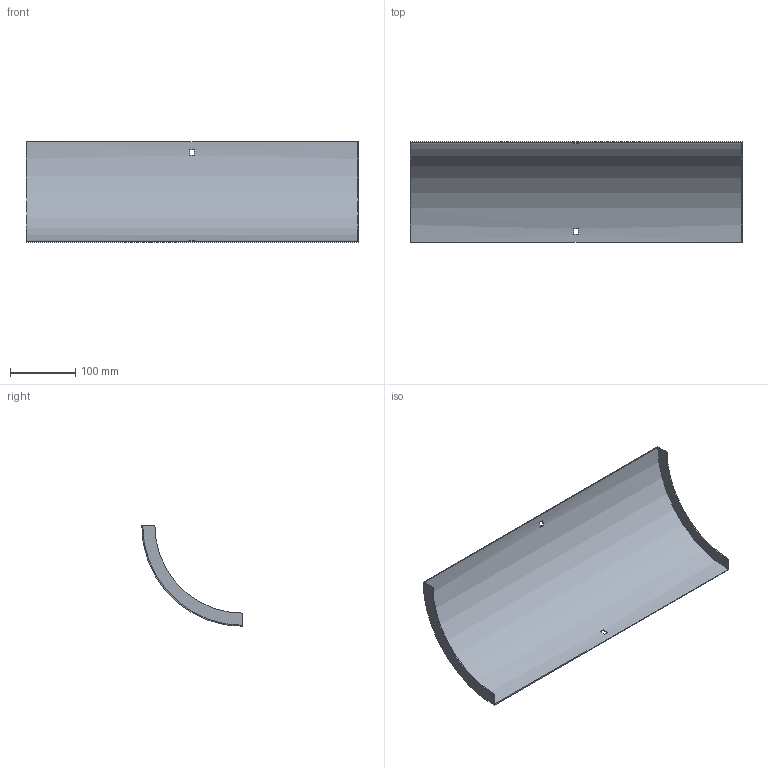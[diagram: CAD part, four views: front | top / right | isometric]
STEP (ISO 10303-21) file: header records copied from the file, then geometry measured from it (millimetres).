
FILE_DESCRIPTION (( 'STEP AP214' ), '1' );
FILE_NAME ('33N1B500.step', '2025-02-21T09:18:14', ( '' ), ( '' ), 'SwSTEP 2.0', 'SolidWorks 2023', '' );
FILE_SCHEMA (( 'AUTOMOTIVE_DESIGN' ));
Length unit declared in the file: millimetre
Products named in the file (1): 33N1B500
Bounding box: 507 x 153.5 x 153.5 mm (x, y, z)
Volume: 194742 mm3; surface area: 262014.2 mm2
Topology: 1 solids, 1 shells, 18 faces, 48 edges, 32 vertices
Faces by surface type: plane 14, cylinder 4
Entity records: 599 total; most frequent: DIRECTION 102, CARTESIAN_POINT 99, ORIENTED_EDGE 96, EDGE_CURVE 48, AXIS2_PLACEMENT_3D 35, VECTOR 32, VERTEX_POINT 32, LINE 32
